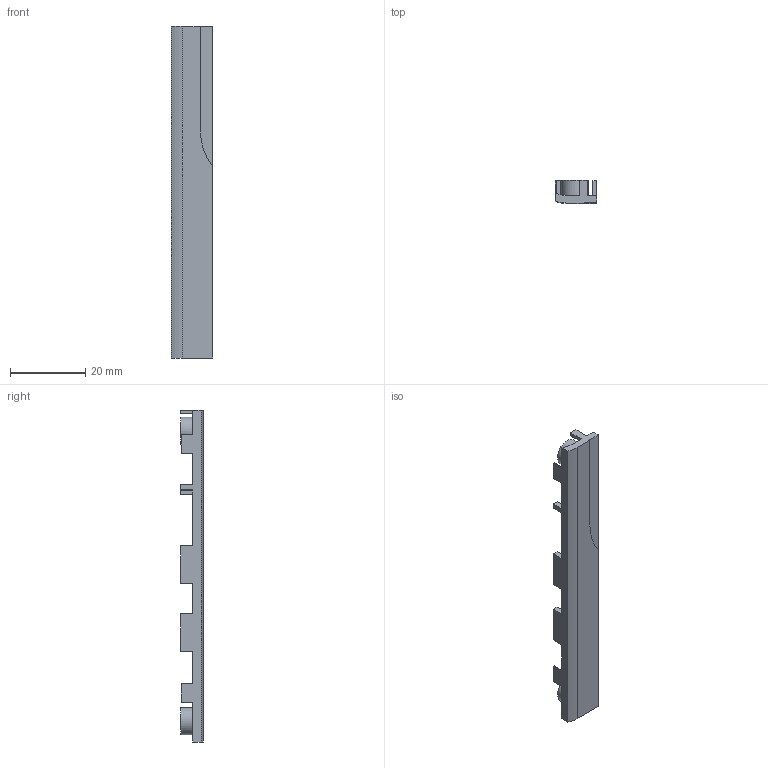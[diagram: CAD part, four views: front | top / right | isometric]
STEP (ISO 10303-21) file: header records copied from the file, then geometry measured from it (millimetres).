
FILE_DESCRIPTION(('Open CASCADE Model'),'2;1');
FILE_NAME('C06_INSERTS - test section with cut boundaries', '2026-09-06T11:35:17',('Author'),('Open CASCADE'), 'Open CASCADE STEP processor 7.8','build123d','Unknown');
FILE_SCHEMA(('AUTOMOTIVE_DESIGN { 1 0 10303 214 1 1 1 1 }'));
Length unit declared in the file: millimetre
Products named in the file (2): C06_INSERTS - test section with cut boundaries; front_chassis_PA12
Assembly tree (1 placements, depth 2):
  C06_INSERTS - test section with cut boundaries
    front_chassis_PA12
Bounding box: 11 x 6.01 x 88 mm (x, y, z)
Volume: 2310.8 mm3; surface area: 2936.9 mm2
Topology: 1 solids, 1 shells, 47 faces, 129 edges, 86 vertices
Faces by surface type: plane 40, cylinder 7
Full cylindrical faces by diameter (mm): 3.2 x2, 7.2 x2
Entity records: 3404 total; most frequent: CARTESIAN_POINT 987, DIRECTION 386, ORIENTED_EDGE 258, PCURVE 258, DEFINITIONAL_REPRESENTATION 258, LINE 224, VECTOR 224, EDGE_CURVE 129
